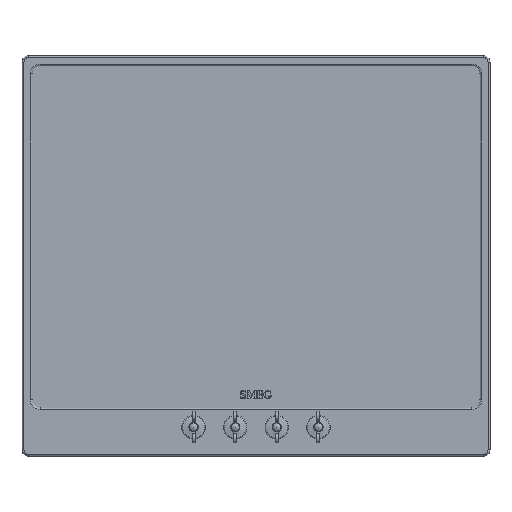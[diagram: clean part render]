
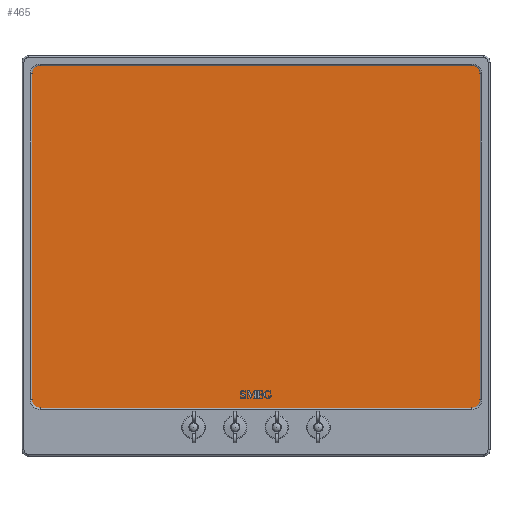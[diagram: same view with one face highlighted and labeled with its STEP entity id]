
A CAD part, top view. The second image highlights one B-rep face of the part: STEP entity #465.
In plain terms, the highlighted planar face has unit normal (0, 0, 1).
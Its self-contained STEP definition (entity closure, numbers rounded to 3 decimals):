
#304=PLANE('',#3985);
#465=ADVANCED_FACE('',(#780),#304,.T.);
#780=FACE_OUTER_BOUND('',#981,.T.);
#981=EDGE_LOOP('',(#2116,#2117,#2118,#2119,#2120,#2121,#2122,#2123));
#1308=LINE('',#5790,#1616);
#1309=LINE('',#5795,#1617);
#1310=LINE('',#5799,#1618);
#1311=LINE('',#5803,#1619);
#1616=VECTOR('',#4619,1.);
#1617=VECTOR('',#4622,1.);
#1618=VECTOR('',#4625,1.);
#1619=VECTOR('',#4628,1.);
#2116=ORIENTED_EDGE('',*,*,#3325,.F.);
#2117=ORIENTED_EDGE('',*,*,#3326,.T.);
#2118=ORIENTED_EDGE('',*,*,#3327,.F.);
#2119=ORIENTED_EDGE('',*,*,#3328,.T.);
#2120=ORIENTED_EDGE('',*,*,#3329,.F.);
#2121=ORIENTED_EDGE('',*,*,#3330,.T.);
#2122=ORIENTED_EDGE('',*,*,#3331,.F.);
#2123=ORIENTED_EDGE('',*,*,#3332,.T.);
#2930=VERTEX_POINT('',#5791);
#2931=VERTEX_POINT('',#5792);
#2932=VERTEX_POINT('',#5794);
#2933=VERTEX_POINT('',#5796);
#2934=VERTEX_POINT('',#5798);
#2935=VERTEX_POINT('',#5800);
#2936=VERTEX_POINT('',#5802);
#2937=VERTEX_POINT('',#5804);
#3325=EDGE_CURVE('',#2930,#2931,#1308,.T.);
#3326=EDGE_CURVE('',#2930,#2932,#3727,.T.);
#3327=EDGE_CURVE('',#2933,#2932,#1309,.T.);
#3328=EDGE_CURVE('',#2933,#2934,#3728,.T.);
#3329=EDGE_CURVE('',#2935,#2934,#1310,.T.);
#3330=EDGE_CURVE('',#2935,#2936,#3729,.T.);
#3331=EDGE_CURVE('',#2937,#2936,#1311,.T.);
#3332=EDGE_CURVE('',#2937,#2931,#3730,.T.);
#3727=CIRCLE('',#3981,5.);
#3728=CIRCLE('',#3982,5.);
#3729=CIRCLE('',#3983,5.);
#3730=CIRCLE('',#3984,5.);
#3981=AXIS2_PLACEMENT_3D('',#5793,#4620,#4621);
#3982=AXIS2_PLACEMENT_3D('',#5797,#4623,#4624);
#3983=AXIS2_PLACEMENT_3D('',#5801,#4626,#4627);
#3984=AXIS2_PLACEMENT_3D('',#5805,#4629,#4630);
#3985=AXIS2_PLACEMENT_3D('',#5806,#4631,#4632);
#4619=DIRECTION('',(0.,-1.,0.));
#4620=DIRECTION('',(0.,0.,1.));
#4621=DIRECTION('',(1.,0.,0.));
#4622=DIRECTION('',(1.,0.,0.));
#4623=DIRECTION('',(0.,0.,1.));
#4624=DIRECTION('',(1.,0.,0.));
#4625=DIRECTION('',(0.,1.,0.));
#4626=DIRECTION('',(0.,0.,1.));
#4627=DIRECTION('',(1.,0.,0.));
#4628=DIRECTION('',(-1.,0.,0.));
#4629=DIRECTION('',(0.,0.,1.));
#4630=DIRECTION('',(1.,0.,0.));
#4631=DIRECTION('',(0.,0.,1.));
#4632=DIRECTION('',(1.,0.,0.));
#5790=CARTESIAN_POINT('',(294.,24.5,-2.));
#5791=CARTESIAN_POINT('',(294.,244.,-2.));
#5792=CARTESIAN_POINT('',(294.,-195.,-2.));
#5793=CARTESIAN_POINT('',(289.,244.,-2.));
#5794=CARTESIAN_POINT('',(289.,249.,-2.));
#5795=CARTESIAN_POINT('',(0.,249.,-2.));
#5796=CARTESIAN_POINT('',(-289.,249.,-2.));
#5797=CARTESIAN_POINT('',(-289.,244.,-2.));
#5798=CARTESIAN_POINT('',(-294.,244.,-2.));
#5799=CARTESIAN_POINT('',(-294.,24.5,-2.));
#5800=CARTESIAN_POINT('',(-294.,-195.,-2.));
#5801=CARTESIAN_POINT('',(-289.,-195.,-2.));
#5802=CARTESIAN_POINT('',(-289.,-200.,-2.));
#5803=CARTESIAN_POINT('',(0.,-200.,-2.));
#5804=CARTESIAN_POINT('',(289.,-200.,-2.));
#5805=CARTESIAN_POINT('',(289.,-195.,-2.));
#5806=CARTESIAN_POINT('',(0.,24.5,-2.));
